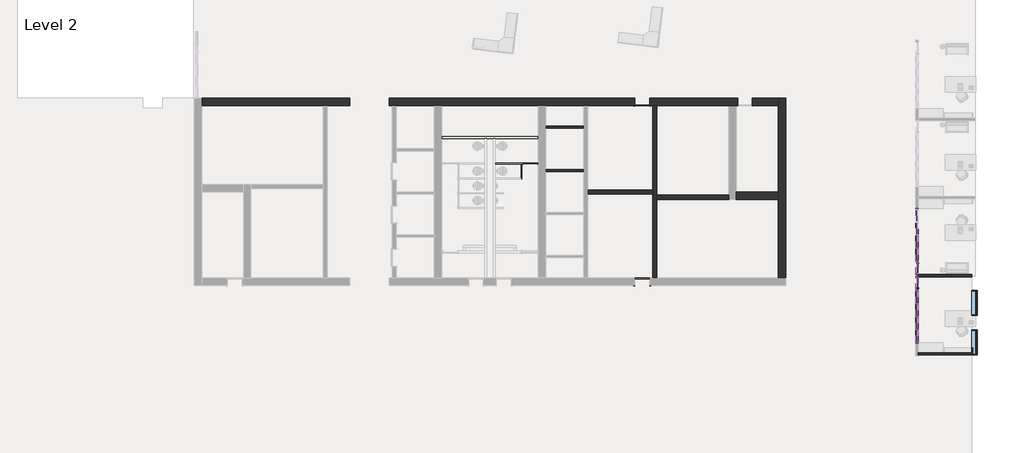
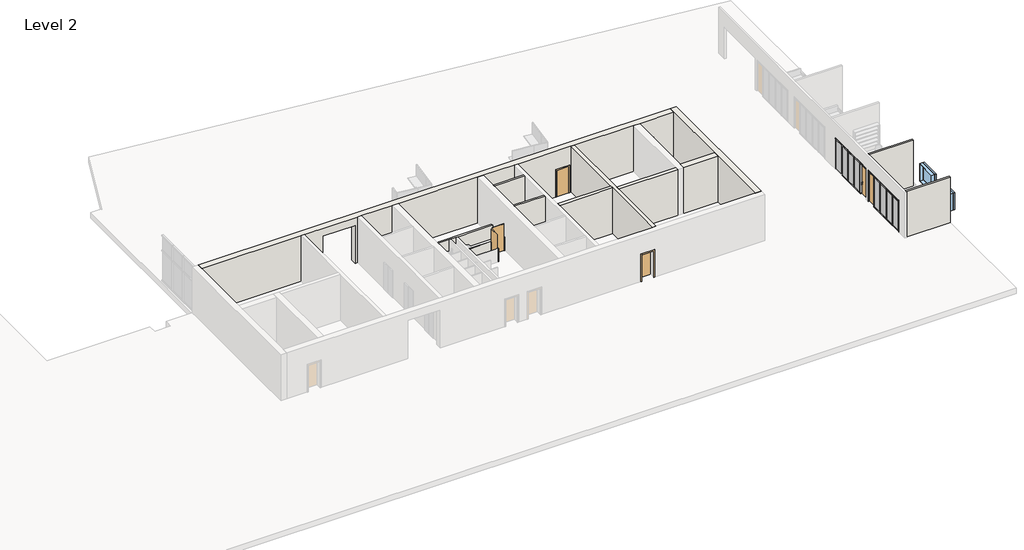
# One storey, part 2 of 7: 47 members, 18 plates, 13 walls, 6 doors, 2 windows.
"""IFC4 building model written with IfcOpenShell, lengths in millimetres."""

from ifc_helpers import new_model, si_unit, frame, origin, place, context, project, spatial, polyline, outline, extrude, faceted_brep, transform, mapped, element, save
from components import curtain_wall_sgl_glass_curtain_wall_sgl_glass_683140d0, curtain_wall_sgl_glass_curtain_wall_sgl_glass_5192a5a3, door_3c99239a, door_aec9db07, toilet_partitions_2_10_0724d611, door_243abaaa, member_9597caa3, member_b2bde9e6, member_ee409385, member_7ffbafd8, member_47ea2df9, member_5507c937, member_0e55f5ff, member_6d48148e, member_7899ddbe, system_panel_glazed_8093bbd9, system_panel_glazed_f9de1280, system_panel_glazed_6896c6c0, system_panel_glazed_50fd444c, window_7a027cf8

model = new_model("IFC4")

# Units and contexts
model_context = context("Model", 3, world=origin())
ifc_project = project(units=[si_unit("LENGTHUNIT", "METRE", prefix="MILLI")], contexts=[model_context])

# Site, building, storey
site = spatial("IfcSite", under=ifc_project)
building = spatial("IfcBuilding", under=site)
storey = spatial("IfcBuildingStorey", under=building, Name="Level 2", Elevation=3657.6)

# Doors
placement = place(None, origin())
curtain_wall_sgl_glass_curtain_wall_sgl_glass_shape = curtain_wall_sgl_glass_curtain_wall_sgl_glass_683140d0(model_context)
element("IfcDoor", 1, ObjectType="Curtain Wall Sgl Glass : Curtain Wall Sgl Glass", at=placement, inside=storey, context=model_context, shape_type="MappedRepresentation", body=[
    mapped(curtain_wall_sgl_glass_curtain_wall_sgl_glass_shape, transform((11449.2054088, -14715.1428492, 3657.6), x_axis=(0.0, 1.0, 0.0), y_axis=(-1.0, 0.0, 0.0), z_axis=(0.0, 0.0, 1.0))),
])
curtain_wall_sgl_glass_curtain_wall_sgl_glass_2_shape = curtain_wall_sgl_glass_curtain_wall_sgl_glass_5192a5a3(model_context)
element("IfcDoor", 2, ObjectType="Curtain Wall Sgl Glass : Curtain Wall Sgl Glass", at=placement, inside=storey, context=model_context, shape_type="MappedRepresentation", body=[
    mapped(curtain_wall_sgl_glass_curtain_wall_sgl_glass_2_shape, transform((11449.2054088, -13709.3028492, 3657.6), x_axis=(0.0, -1.0, 0.0), y_axis=(1.0, 0.0, 0.0), z_axis=(0.0, 0.0, 1.0))),
])
door_shape = door_3c99239a(model_context)
element("IfcDoor", 3, ObjectType="Single-Flush : 36\" x 84\"", at=placement, inside=storey, context=model_context, shape_type="MappedRepresentation", body=[
    mapped(door_shape, transform((-5525.0427926, -14594.8103492, 3657.6), x_axis=(1.0, 0.0, 0.0), y_axis=(0.0, 1.0, 0.0), z_axis=(0.0, 0.0, 1.0))),
])
door_2_shape = door_aec9db07(model_context)
element("IfcDoor", 4, ObjectType="Single-Flush : 36\" x 84\"", at=placement, inside=storey, context=model_context, shape_type="MappedRepresentation", body=[
    mapped(door_2_shape, transform((-5525.0427926, -3469.6103492, 3657.6), x_axis=(1.0, 0.0, 0.0), y_axis=(0.0, 1.0, 0.0), z_axis=(0.0, 0.0, 1.0))),
])
toilet_partitions_2_10_shape = toilet_partitions_2_10_0724d611(model_context)
element("IfcDoor", 5, ObjectType="toilet Partitions : 2'10", at=placement, inside=storey, context=model_context, shape_type="MappedRepresentation", body=[
    mapped(toilet_partitions_2_10_shape, transform((-12449.7428559, -7282.7853492, 3657.6), x_axis=(1.0, 0.0, 0.0), y_axis=(0.0, 1.0, 0.0), z_axis=(0.0, 0.0, 1.0))),
])
door_3_shape = door_243abaaa(model_context)
element("IfcDoor", 6, ObjectType="toilet Partitions : 2'5\"", at=placement, inside=storey, context=model_context, shape_type="MappedRepresentation", body=[
    mapped(door_3_shape, transform((-12985.3856498, -7739.9853492, 3657.6), x_axis=(0.0, -1.0, 0.0), y_axis=(1.0, 0.0, 0.0), z_axis=(0.0, 0.0, 1.0))),
])

# Members
member_shape = member_9597caa3(model_context)
element("IfcMember", 7, ObjectType="Rectangular Mullion : 2.5\" x 5\" rectangular", at=placement, inside=storey, context=model_context, shape_type="MappedRepresentation", body=[
    mapped(member_shape, transform((11449.2054088, -13307.9828492, 3721.1), x_axis=(0.0, 1.0, 0.0), y_axis=(1.0, 0.0, 0.0), z_axis=(0.0, 0.0, -1.0))),
])
element("IfcMember", 8, ObjectType="Rectangular Mullion : 2.5\" x 5\" rectangular", at=placement, inside=storey, context=model_context, shape_type="MappedRepresentation", body=[
    mapped(member_shape, transform((11449.2054088, -12505.3428492, 3721.1), x_axis=(0.0, 1.0, 0.0), y_axis=(1.0, 0.0, 0.0), z_axis=(0.0, 0.0, -1.0))),
])
element("IfcMember", 9, ObjectType="Rectangular Mullion : 2.5\" x 5\" rectangular", at=placement, inside=storey, context=model_context, shape_type="MappedRepresentation", body=[
    mapped(member_shape, transform((11449.2054088, -11702.7028492, 3721.1), x_axis=(0.0, 1.0, 0.0), y_axis=(1.0, 0.0, 0.0), z_axis=(0.0, 0.0, -1.0))),
])
member_2_shape = member_b2bde9e6(model_context)
element("IfcMember", 10, ObjectType="Rectangular Mullion : 2.5\" x 5\" rectangular", at=placement, inside=storey, context=model_context, shape_type="MappedRepresentation", body=[
    mapped(member_2_shape, transform((11449.2054088, -10065.6728492, 3721.1), x_axis=(0.0, 1.0, 0.0), y_axis=(1.0, 0.0, 0.0), z_axis=(0.0, 0.0, -1.0))),
])
element("IfcMember", 11, ObjectType="Rectangular Mullion : 2.5\" x 5\" rectangular", at=placement, inside=storey, context=model_context, shape_type="MappedRepresentation", body=[
    mapped(member_shape, transform((11449.2054088, -15116.4628492, 3721.1), x_axis=(0.0, -1.0, 0.0), y_axis=(-1.0, 0.0, 0.0), z_axis=(0.0, 0.0, -1.0))),
])
element("IfcMember", 12, ObjectType="Rectangular Mullion : 2.5\" x 5\" rectangular", at=placement, inside=storey, context=model_context, shape_type="MappedRepresentation", body=[
    mapped(member_shape, transform((11449.2054088, -15919.1028492, 3721.1), x_axis=(0.0, -1.0, 0.0), y_axis=(-1.0, 0.0, 0.0), z_axis=(0.0, 0.0, -1.0))),
])
element("IfcMember", 13, ObjectType="Rectangular Mullion : 2.5\" x 5\" rectangular", at=placement, inside=storey, context=model_context, shape_type="MappedRepresentation", body=[
    mapped(member_shape, transform((11449.2054088, -16721.7428492, 3721.1), x_axis=(0.0, -1.0, 0.0), y_axis=(-1.0, 0.0, 0.0), z_axis=(0.0, 0.0, -1.0))),
])
element("IfcMember", 14, ObjectType="Rectangular Mullion : 2.5\" x 5\" rectangular", at=placement, inside=storey, context=model_context, shape_type="MappedRepresentation", body=[
    mapped(member_shape, transform((11449.2054088, -17524.3828492, 3721.1), x_axis=(0.0, -1.0, 0.0), y_axis=(-1.0, 0.0, 0.0), z_axis=(0.0, 0.0, -1.0))),
])
element("IfcMember", 15, ObjectType="Rectangular Mullion : 2.5\" x 5\" rectangular", at=placement, inside=storey, context=model_context, shape_type="MappedRepresentation", body=[
    mapped(member_2_shape, transform((11449.2054088, -18358.7728492, 3721.1), x_axis=(0.0, -1.0, 0.0), y_axis=(-1.0, 0.0, 0.0), z_axis=(0.0, 0.0, -1.0))),
])
member_3_shape = member_ee409385(model_context)
element("IfcMember", 16, ObjectType="Rectangular Mullion : 2.5\" x 5\" rectangular", at=placement, inside=storey, context=model_context, shape_type="MappedRepresentation", body=[
    mapped(member_3_shape, transform((11449.2054088, -14142.3728492, 6096.0), x_axis=(0.0, -1.0, 0.0), y_axis=(1.0, 0.0, 0.0), z_axis=(0.0, 0.0, 1.0))),
])
member_4_shape = member_7ffbafd8(model_context)
element("IfcMember", 17, ObjectType="Rectangular Mullion : 2.5\" x 5\" rectangular", at=placement, inside=storey, context=model_context, shape_type="MappedRepresentation", body=[
    mapped(member_4_shape, transform((11449.2054088, -18358.7728492, 6197.6), x_axis=(0.0, 0.0, 1.0), y_axis=(-1.0, 0.0, 0.0), z_axis=(0.0, -1.0, 0.0))),
])
element("IfcMember", 18, ObjectType="Rectangular Mullion : 2.5\" x 5\" rectangular", at=placement, inside=storey, context=model_context, shape_type="MappedRepresentation", body=[
    mapped(member_4_shape, transform((11449.2054088, -15116.4628492, 6197.6), x_axis=(0.0, 0.0, 1.0), y_axis=(-1.0, 0.0, 0.0), z_axis=(0.0, -1.0, 0.0))),
])
element("IfcMember", 19, ObjectType="Rectangular Mullion : 2.5\" x 5\" rectangular", at=placement, inside=storey, context=model_context, shape_type="MappedRepresentation", body=[
    mapped(member_4_shape, transform((11449.2054088, -15084.7128492, 3657.6), x_axis=(0.0, 0.0, -1.0), y_axis=(-1.0, 0.0, 0.0), z_axis=(0.0, 1.0, 0.0))),
])
member_5_shape = member_47ea2df9(model_context)
element("IfcMember", 20, ObjectType="Rectangular Mullion : 2.5\" x 5\" rectangular", at=placement, inside=storey, context=model_context, shape_type="MappedRepresentation", body=[
    mapped(member_5_shape, transform((11449.2054088, -15919.1028492, 6096.0), x_axis=(0.0, 0.0, 1.0), y_axis=(-1.0, 0.0, 0.0), z_axis=(0.0, -1.0, 0.0))),
])
element("IfcMember", 21, ObjectType="Rectangular Mullion : 2.5\" x 5\" rectangular", at=placement, inside=storey, context=model_context, shape_type="MappedRepresentation", body=[
    mapped(member_5_shape, transform((11449.2054088, -16721.7428492, 6096.0), x_axis=(0.0, 0.0, 1.0), y_axis=(-1.0, 0.0, 0.0), z_axis=(0.0, -1.0, 0.0))),
])
element("IfcMember", 22, ObjectType="Rectangular Mullion : 2.5\" x 5\" rectangular", at=placement, inside=storey, context=model_context, shape_type="MappedRepresentation", body=[
    mapped(member_5_shape, transform((11449.2054088, -17524.3828492, 6096.0), x_axis=(0.0, 0.0, 1.0), y_axis=(-1.0, 0.0, 0.0), z_axis=(0.0, -1.0, 0.0))),
])
member_6_shape = member_5507c937(model_context)
element("IfcMember", 23, ObjectType="Rectangular Mullion : 2.5\" x 5\" rectangular", at=placement, inside=storey, context=model_context, shape_type="MappedRepresentation", body=[
    mapped(member_6_shape, transform((11449.2054088, -15919.1028492, 6197.6), x_axis=(0.0, 0.0, 1.0), y_axis=(-1.0, 0.0, 0.0), z_axis=(0.0, -1.0, 0.0))),
])
element("IfcMember", 24, ObjectType="Rectangular Mullion : 2.5\" x 5\" rectangular", at=placement, inside=storey, context=model_context, shape_type="MappedRepresentation", body=[
    mapped(member_6_shape, transform((11449.2054088, -16721.7428492, 6197.6), x_axis=(0.0, 0.0, 1.0), y_axis=(-1.0, 0.0, 0.0), z_axis=(0.0, -1.0, 0.0))),
])
element("IfcMember", 25, ObjectType="Rectangular Mullion : 2.5\" x 5\" rectangular", at=placement, inside=storey, context=model_context, shape_type="MappedRepresentation", body=[
    mapped(member_6_shape, transform((11449.2054088, -17524.3828492, 6197.6), x_axis=(0.0, 0.0, 1.0), y_axis=(-1.0, 0.0, 0.0), z_axis=(0.0, -1.0, 0.0))),
])
element("IfcMember", 26, ObjectType="Rectangular Mullion : 2.5\" x 5\" rectangular", at=placement, inside=storey, context=model_context, shape_type="MappedRepresentation", body=[
    mapped(member_6_shape, transform((11449.2054088, -15919.1028492, 3657.6), x_axis=(0.0, 0.0, -1.0), y_axis=(-1.0, 0.0, 0.0), z_axis=(0.0, 1.0, 0.0))),
])
element("IfcMember", 27, ObjectType="Rectangular Mullion : 2.5\" x 5\" rectangular", at=placement, inside=storey, context=model_context, shape_type="MappedRepresentation", body=[
    mapped(member_6_shape, transform((11449.2054088, -16721.7428492, 3657.6), x_axis=(0.0, 0.0, -1.0), y_axis=(-1.0, 0.0, 0.0), z_axis=(0.0, 1.0, 0.0))),
])
element("IfcMember", 28, ObjectType="Rectangular Mullion : 2.5\" x 5\" rectangular", at=placement, inside=storey, context=model_context, shape_type="MappedRepresentation", body=[
    mapped(member_4_shape, transform((11449.2054088, -17524.3828492, 3657.6), x_axis=(0.0, 0.0, -1.0), y_axis=(-1.0, 0.0, 0.0), z_axis=(0.0, 1.0, 0.0))),
])
member_7_shape = member_0e55f5ff(model_context)
element("IfcMember", 29, ObjectType="Rectangular Mullion : 2.5\" x 5\" rectangular", at=placement, inside=storey, context=model_context, shape_type="MappedRepresentation", body=[
    mapped(member_7_shape, transform((11449.2054088, -18295.2728492, 6096.0), x_axis=(0.0, 0.0, 1.0), y_axis=(-1.0, 0.0, 0.0), z_axis=(0.0, -1.0, 0.0))),
])
element("IfcMember", 30, ObjectType="Rectangular Mullion : 2.5\" x 5\" rectangular", at=placement, inside=storey, context=model_context, shape_type="MappedRepresentation", body=[
    mapped(member_7_shape, transform((11449.2054088, -15116.4628492, 6096.0), x_axis=(0.0, 0.0, 1.0), y_axis=(-1.0, 0.0, 0.0), z_axis=(0.0, -1.0, 0.0))),
])
element("IfcMember", 31, ObjectType="Rectangular Mullion : 2.5\" x 5\" rectangular", at=placement, inside=storey, context=model_context, shape_type="MappedRepresentation", body=[
    mapped(member_3_shape, transform((11449.2054088, -14282.0728492, 6096.0), x_axis=(0.0, 1.0, 0.0), y_axis=(-1.0, 0.0, 0.0), z_axis=(0.0, 0.0, 1.0))),
])
element("IfcMember", 32, ObjectType="Rectangular Mullion : 2.5\" x 5\" rectangular", at=placement, inside=storey, context=model_context, shape_type="MappedRepresentation", body=[
    mapped(member_4_shape, transform((11449.2054088, -10065.6728492, 6197.6), x_axis=(0.0, 0.0, 1.0), y_axis=(1.0, 0.0, 0.0), z_axis=(0.0, 1.0, 0.0))),
])
element("IfcMember", 33, ObjectType="Rectangular Mullion : 2.5\" x 5\" rectangular", at=placement, inside=storey, context=model_context, shape_type="MappedRepresentation", body=[
    mapped(member_4_shape, transform((11449.2054088, -13307.9828492, 6197.6), x_axis=(0.0, 0.0, 1.0), y_axis=(1.0, 0.0, 0.0), z_axis=(0.0, 1.0, 0.0))),
])
element("IfcMember", 34, ObjectType="Rectangular Mullion : 2.5\" x 5\" rectangular", at=placement, inside=storey, context=model_context, shape_type="MappedRepresentation", body=[
    mapped(member_4_shape, transform((11449.2054088, -13339.7328492, 3657.6), x_axis=(0.0, 0.0, -1.0), y_axis=(1.0, 0.0, 0.0), z_axis=(0.0, -1.0, 0.0))),
])
element("IfcMember", 35, ObjectType="Rectangular Mullion : 2.5\" x 5\" rectangular", at=placement, inside=storey, context=model_context, shape_type="MappedRepresentation", body=[
    mapped(member_5_shape, transform((11449.2054088, -12505.3428492, 6096.0), x_axis=(0.0, 0.0, 1.0), y_axis=(1.0, 0.0, 0.0), z_axis=(0.0, 1.0, 0.0))),
])
element("IfcMember", 36, ObjectType="Rectangular Mullion : 2.5\" x 5\" rectangular", at=placement, inside=storey, context=model_context, shape_type="MappedRepresentation", body=[
    mapped(member_5_shape, transform((11449.2054088, -11702.7028492, 6096.0), x_axis=(0.0, 0.0, 1.0), y_axis=(1.0, 0.0, 0.0), z_axis=(0.0, 1.0, 0.0))),
])
element("IfcMember", 37, ObjectType="Rectangular Mullion : 2.5\" x 5\" rectangular", at=placement, inside=storey, context=model_context, shape_type="MappedRepresentation", body=[
    mapped(member_6_shape, transform((11449.2054088, -12505.3428492, 6197.6), x_axis=(0.0, 0.0, 1.0), y_axis=(1.0, 0.0, 0.0), z_axis=(0.0, 1.0, 0.0))),
])
element("IfcMember", 38, ObjectType="Rectangular Mullion : 2.5\" x 5\" rectangular", at=placement, inside=storey, context=model_context, shape_type="MappedRepresentation", body=[
    mapped(member_6_shape, transform((11449.2054088, -11702.7028492, 6197.6), x_axis=(0.0, 0.0, 1.0), y_axis=(1.0, 0.0, 0.0), z_axis=(0.0, 1.0, 0.0))),
])
element("IfcMember", 39, ObjectType="Rectangular Mullion : 2.5\" x 5\" rectangular", at=placement, inside=storey, context=model_context, shape_type="MappedRepresentation", body=[
    mapped(member_6_shape, transform((11449.2054088, -10900.0628492, 6197.6), x_axis=(0.0, 0.0, 1.0), y_axis=(1.0, 0.0, 0.0), z_axis=(0.0, 1.0, 0.0))),
])
element("IfcMember", 40, ObjectType="Rectangular Mullion : 2.5\" x 5\" rectangular", at=placement, inside=storey, context=model_context, shape_type="MappedRepresentation", body=[
    mapped(member_6_shape, transform((11449.2054088, -12505.3428492, 3657.6), x_axis=(0.0, 0.0, -1.0), y_axis=(1.0, 0.0, 0.0), z_axis=(0.0, -1.0, 0.0))),
])
element("IfcMember", 41, ObjectType="Rectangular Mullion : 2.5\" x 5\" rectangular", at=placement, inside=storey, context=model_context, shape_type="MappedRepresentation", body=[
    mapped(member_6_shape, transform((11449.2054088, -11702.7028492, 3657.6), x_axis=(0.0, 0.0, -1.0), y_axis=(1.0, 0.0, 0.0), z_axis=(0.0, -1.0, 0.0))),
])
element("IfcMember", 42, ObjectType="Rectangular Mullion : 2.5\" x 5\" rectangular", at=placement, inside=storey, context=model_context, shape_type="MappedRepresentation", body=[
    mapped(member_7_shape, transform((11449.2054088, -13307.9828492, 6096.0), x_axis=(0.0, 0.0, 1.0), y_axis=(1.0, 0.0, 0.0), z_axis=(0.0, 1.0, 0.0))),
])
member_8_shape = member_6d48148e(model_context)
element("IfcMember", 43, ObjectType="Rectangular Mullion : 2.5\" x 5\" rectangular", at=placement, inside=storey, context=model_context, shape_type="MappedRepresentation", body=[
    mapped(member_8_shape, transform((11449.2054088, -13307.9828492, 6127.75), x_axis=(0.0, 1.0, 0.0), y_axis=(1.0, 0.0, 0.0), z_axis=(0.0, 0.0, -1.0))),
])
element("IfcMember", 44, ObjectType="Rectangular Mullion : 2.5\" x 5\" rectangular", at=placement, inside=storey, context=model_context, shape_type="MappedRepresentation", body=[
    mapped(member_8_shape, transform((11449.2054088, -12505.3428492, 6127.75), x_axis=(0.0, 1.0, 0.0), y_axis=(1.0, 0.0, 0.0), z_axis=(0.0, 0.0, -1.0))),
])
element("IfcMember", 45, ObjectType="Rectangular Mullion : 2.5\" x 5\" rectangular", at=placement, inside=storey, context=model_context, shape_type="MappedRepresentation", body=[
    mapped(member_8_shape, transform((11449.2054088, -11702.7028492, 6127.75), x_axis=(0.0, 1.0, 0.0), y_axis=(1.0, 0.0, 0.0), z_axis=(0.0, 0.0, -1.0))),
])
member_9_shape = member_7899ddbe(model_context)
element("IfcMember", 46, ObjectType="Rectangular Mullion : 2.5\" x 5\" rectangular", at=placement, inside=storey, context=model_context, shape_type="MappedRepresentation", body=[
    mapped(member_9_shape, transform((11449.2054088, -10065.6728492, 6096.0), x_axis=(0.0, 1.0, 0.0), y_axis=(1.0, 0.0, 0.0), z_axis=(0.0, 0.0, -1.0))),
])
element("IfcMember", 47, ObjectType="Rectangular Mullion : 2.5\" x 5\" rectangular", at=placement, inside=storey, context=model_context, shape_type="MappedRepresentation", body=[
    mapped(member_9_shape, transform((11449.2054088, -14142.3728492, 6134.1), x_axis=(0.0, -1.0, 0.0), y_axis=(1.0, 0.0, 0.0), z_axis=(0.0, 0.0, 1.0))),
])
element("IfcMember", 48, ObjectType="Rectangular Mullion : 2.5\" x 5\" rectangular", at=placement, inside=storey, context=model_context, shape_type="MappedRepresentation", body=[
    mapped(member_8_shape, transform((11449.2054088, -15116.4628492, 6127.75), x_axis=(0.0, -1.0, 0.0), y_axis=(-1.0, 0.0, 0.0), z_axis=(0.0, 0.0, -1.0))),
])
element("IfcMember", 49, ObjectType="Rectangular Mullion : 2.5\" x 5\" rectangular", at=placement, inside=storey, context=model_context, shape_type="MappedRepresentation", body=[
    mapped(member_8_shape, transform((11449.2054088, -15919.1028492, 6127.75), x_axis=(0.0, -1.0, 0.0), y_axis=(-1.0, 0.0, 0.0), z_axis=(0.0, 0.0, -1.0))),
])
element("IfcMember", 50, ObjectType="Rectangular Mullion : 2.5\" x 5\" rectangular", at=placement, inside=storey, context=model_context, shape_type="MappedRepresentation", body=[
    mapped(member_8_shape, transform((11449.2054088, -16721.7428492, 6127.75), x_axis=(0.0, -1.0, 0.0), y_axis=(-1.0, 0.0, 0.0), z_axis=(0.0, 0.0, -1.0))),
])
element("IfcMember", 51, ObjectType="Rectangular Mullion : 2.5\" x 5\" rectangular", at=placement, inside=storey, context=model_context, shape_type="MappedRepresentation", body=[
    mapped(member_8_shape, transform((11449.2054088, -17524.3828492, 6127.75), x_axis=(0.0, -1.0, 0.0), y_axis=(-1.0, 0.0, 0.0), z_axis=(0.0, 0.0, -1.0))),
])
element("IfcMember", 52, ObjectType="Rectangular Mullion : 2.5\" x 5\" rectangular", at=placement, inside=storey, context=model_context, shape_type="MappedRepresentation", body=[
    mapped(member_9_shape, transform((11449.2054088, -18358.7728492, 6096.0), x_axis=(0.0, -1.0, 0.0), y_axis=(-1.0, 0.0, 0.0), z_axis=(0.0, 0.0, -1.0))),
])
element("IfcMember", 53, ObjectType="Rectangular Mullion : 2.5\" x 5\" rectangular", at=placement, inside=storey, context=model_context, shape_type="MappedRepresentation", body=[
    mapped(member_9_shape, transform((11449.2054088, -14282.0728492, 6134.1), x_axis=(0.0, 1.0, 0.0), y_axis=(-1.0, 0.0, 0.0), z_axis=(0.0, 0.0, 1.0))),
])

# Plates
system_panel_glazed_shape = system_panel_glazed_8093bbd9(model_context)
element("IfcPlate", 54, ObjectType="System Panel : Glazed", at=placement, inside=storey, context=model_context, shape_type="MappedRepresentation", body=[
    mapped(system_panel_glazed_shape, transform((11449.2054088, -15517.7828492, 3721.1), x_axis=(0.0, -1.0, 0.0), y_axis=(1.0, 0.0, 0.0), z_axis=(0.0, 0.0, 1.0))),
])
element("IfcPlate", 55, ObjectType="System Panel : Glazed", at=placement, inside=storey, context=model_context, shape_type="MappedRepresentation", body=[
    mapped(system_panel_glazed_shape, transform((11449.2054088, -16320.4228492, 3721.1), x_axis=(0.0, -1.0, 0.0), y_axis=(1.0, 0.0, 0.0), z_axis=(0.0, 0.0, 1.0))),
])
element("IfcPlate", 56, ObjectType="System Panel : Glazed", at=placement, inside=storey, context=model_context, shape_type="MappedRepresentation", body=[
    mapped(system_panel_glazed_shape, transform((11449.2054088, -17123.0628492, 3721.1), x_axis=(0.0, -1.0, 0.0), y_axis=(1.0, 0.0, 0.0), z_axis=(0.0, 0.0, 1.0))),
])
element("IfcPlate", 57, ObjectType="System Panel : Glazed", at=placement, inside=storey, context=model_context, shape_type="MappedRepresentation", body=[
    mapped(system_panel_glazed_shape, transform((11449.2054088, -17925.7028492, 3721.1), x_axis=(0.0, -1.0, 0.0), y_axis=(1.0, 0.0, 0.0), z_axis=(0.0, 0.0, 1.0))),
])
system_panel_glazed_2_shape = system_panel_glazed_f9de1280(model_context)
element("IfcPlate", 58, ObjectType="System Panel : Glazed", at=placement, inside=storey, context=model_context, shape_type="MappedRepresentation", body=[
    mapped(system_panel_glazed_2_shape, transform((11449.2054088, -12906.6628492, 3721.1), x_axis=(0.0, 1.0, 0.0), y_axis=(-1.0, 0.0, 0.0), z_axis=(0.0, 0.0, 1.0))),
])
element("IfcPlate", 59, ObjectType="System Panel : Glazed", at=placement, inside=storey, context=model_context, shape_type="MappedRepresentation", body=[
    mapped(system_panel_glazed_2_shape, transform((11449.2054088, -12104.0228492, 3721.1), x_axis=(0.0, 1.0, 0.0), y_axis=(-1.0, 0.0, 0.0), z_axis=(0.0, 0.0, 1.0))),
])
element("IfcPlate", 60, ObjectType="System Panel : Glazed", at=placement, inside=storey, context=model_context, shape_type="MappedRepresentation", body=[
    mapped(system_panel_glazed_2_shape, transform((11449.2054088, -11301.3828492, 3721.1), x_axis=(0.0, 1.0, 0.0), y_axis=(-1.0, 0.0, 0.0), z_axis=(0.0, 0.0, 1.0))),
])
element("IfcPlate", 61, ObjectType="System Panel : Glazed", at=placement, inside=storey, context=model_context, shape_type="MappedRepresentation", body=[
    mapped(system_panel_glazed_2_shape, transform((11449.2054088, -10498.7428492, 3721.1), x_axis=(0.0, 1.0, 0.0), y_axis=(-1.0, 0.0, 0.0), z_axis=(0.0, 0.0, 1.0))),
])
system_panel_glazed_3_shape = system_panel_glazed_6896c6c0(model_context)
element("IfcPlate", 62, ObjectType="System Panel : Glazed", at=placement, inside=storey, context=model_context, shape_type="MappedRepresentation", body=[
    mapped(system_panel_glazed_3_shape, transform((11449.2054088, -13709.3028492, 6127.75), x_axis=(0.0, 1.0, 0.0), y_axis=(-1.0, 0.0, 0.0), z_axis=(0.0, 0.0, 1.0))),
])
element("IfcPlate", 63, ObjectType="System Panel : Glazed", at=placement, inside=storey, context=model_context, shape_type="MappedRepresentation", body=[
    mapped(system_panel_glazed_3_shape, transform((11449.2054088, -12906.6628492, 6127.75), x_axis=(0.0, 1.0, 0.0), y_axis=(-1.0, 0.0, 0.0), z_axis=(0.0, 0.0, 1.0))),
])
element("IfcPlate", 64, ObjectType="System Panel : Glazed", at=placement, inside=storey, context=model_context, shape_type="MappedRepresentation", body=[
    mapped(system_panel_glazed_3_shape, transform((11449.2054088, -12104.0228492, 6127.75), x_axis=(0.0, 1.0, 0.0), y_axis=(-1.0, 0.0, 0.0), z_axis=(0.0, 0.0, 1.0))),
])
element("IfcPlate", 65, ObjectType="System Panel : Glazed", at=placement, inside=storey, context=model_context, shape_type="MappedRepresentation", body=[
    mapped(system_panel_glazed_3_shape, transform((11449.2054088, -11301.3828492, 6127.75), x_axis=(0.0, 1.0, 0.0), y_axis=(-1.0, 0.0, 0.0), z_axis=(0.0, 0.0, 1.0))),
])
element("IfcPlate", 66, ObjectType="System Panel : Glazed", at=placement, inside=storey, context=model_context, shape_type="MappedRepresentation", body=[
    mapped(system_panel_glazed_3_shape, transform((11449.2054088, -10498.7428492, 6127.75), x_axis=(0.0, 1.0, 0.0), y_axis=(-1.0, 0.0, 0.0), z_axis=(0.0, 0.0, 1.0))),
])
system_panel_glazed_4_shape = system_panel_glazed_50fd444c(model_context)
element("IfcPlate", 67, ObjectType="System Panel : Glazed", at=placement, inside=storey, context=model_context, shape_type="MappedRepresentation", body=[
    mapped(system_panel_glazed_4_shape, transform((11449.2054088, -14715.1428492, 6127.75), x_axis=(0.0, -1.0, 0.0), y_axis=(1.0, 0.0, 0.0), z_axis=(0.0, 0.0, 1.0))),
])
element("IfcPlate", 68, ObjectType="System Panel : Glazed", at=placement, inside=storey, context=model_context, shape_type="MappedRepresentation", body=[
    mapped(system_panel_glazed_4_shape, transform((11449.2054088, -15517.7828492, 6127.75), x_axis=(0.0, -1.0, 0.0), y_axis=(1.0, 0.0, 0.0), z_axis=(0.0, 0.0, 1.0))),
])
element("IfcPlate", 69, ObjectType="System Panel : Glazed", at=placement, inside=storey, context=model_context, shape_type="MappedRepresentation", body=[
    mapped(system_panel_glazed_4_shape, transform((11449.2054088, -16320.4228492, 6127.75), x_axis=(0.0, -1.0, 0.0), y_axis=(1.0, 0.0, 0.0), z_axis=(0.0, 0.0, 1.0))),
])
element("IfcPlate", 70, ObjectType="System Panel : Glazed", at=placement, inside=storey, context=model_context, shape_type="MappedRepresentation", body=[
    mapped(system_panel_glazed_4_shape, transform((11449.2054088, -17123.0628492, 6127.75), x_axis=(0.0, -1.0, 0.0), y_axis=(1.0, 0.0, 0.0), z_axis=(0.0, 0.0, 1.0))),
])
element("IfcPlate", 71, ObjectType="System Panel : Glazed", at=placement, inside=storey, context=model_context, shape_type="MappedRepresentation", body=[
    mapped(system_panel_glazed_4_shape, transform((11449.2054088, -17925.7028492, 6127.75), x_axis=(0.0, -1.0, 0.0), y_axis=(1.0, 0.0, 0.0), z_axis=(0.0, 0.0, 1.0))),
])

# Walls
element("IfcWall", 72, ObjectType="Core-shaft 10\" Concrete", at=placement, inside=storey, context=model_context, shape_type="Brep", body=[
    faceted_brep([(-4636.0427926, -14366.2103492, 3657.6), (-4636.0427926, -9489.4103492, 3657.6), (-4636.0427926, -9235.4103492, 3657.6), (-4636.0427926, -3698.2103492, 3657.6), (-4636.0427926, -3698.2103492, 7315.2), (-4636.0427926, -9235.4103492, 7315.2), (-4636.0427926, -9489.4103492, 7315.2), (-4636.0427926, -14366.2103492, 7315.2), (-4890.0427926, -14366.2103492, 3657.6), (-4890.0427926, -14366.2103492, 7315.2), (-4890.0427926, -3698.2103492, 7315.2), (-4890.0427926, -3698.2103492, 3657.6)], [[[0, 1, 2, 3, 4, 5, 6, 7]], [[8, 9, 10, 11]], [[3, 2, 1, 0, 8, 11]], [[7, 6, 5, 4, 10, 9]], [[0, 7, 9, 8]], [[4, 3, 11, 10]]]),
])
element("IfcWall", 73, ObjectType="Core-shaft 10\" Concrete", at=placement, inside=storey, context=model_context, shape_type="SweptSolid", body=[
    extrude(outline(polyline([(-4636.0427926, -9235.4103492), (-172.8999355, -9235.4103492), (-172.8999355, -9489.4103492), (-4636.0427926, -9489.4103492), (-4636.0427926, -9235.4103492)])), frame((0.0, 0.0, 3657.6), z_axis=(0.0, 0.0, 1.0), x_axis=(1.0, 0.0, 0.0)), (0.0, 0.0, 1.0), 3657.6),
])
element("IfcWall", 74, ObjectType="Core-shaft 10\" Concrete", at=placement, inside=storey, context=model_context, shape_type="SweptSolid", body=[
    extrude(outline(polyline([(-8903.2427926, -8905.2103492), (-4890.0427926, -8905.2103492), (-4890.0427926, -9159.2103492), (-8903.2427926, -9159.2103492), (-8903.2427926, -8905.2103492)])), frame((0.0, 0.0, 3657.6), z_axis=(0.0, 0.0, 1.0), x_axis=(1.0, 0.0, 0.0)), (0.0, 0.0, 1.0), 3657.6),
])
element("IfcWall", 75, ObjectType="Core-shaft 18\" Concrete", at=placement, inside=storey, context=model_context, shape_type="Brep", body=[
    faceted_brep([(2867.8429217, -3241.0103492, 3657.6), (2867.8429217, -3698.2103492, 3657.6), (2867.8429217, -9032.2103492, 3657.6), (2867.8429217, -9489.4103492, 3657.6), (2867.8429217, -14366.2103492, 3657.6), (2867.8429217, -14366.2103492, 7315.2), (2867.8429217, -9489.4103492, 7315.2), (2867.8429217, -9032.2103492, 7315.2), (2867.8429217, -3698.2103492, 7315.2), (2867.8429217, -3241.0103492, 7315.2), (3325.0429217, -3241.0103492, 3657.6), (3325.0429217, -3241.0103492, 7315.2), (3325.0429217, -14366.2103492, 7315.2), (3325.0429217, -14366.2103492, 3657.6)], [[[0, 1, 2, 3, 4, 5, 6, 7, 8, 9]], [[10, 11, 12, 13]], [[4, 3, 2, 1, 0, 10, 13]], [[9, 8, 7, 6, 5, 12, 11]], [[5, 4, 13, 12]], [[0, 9, 11, 10]]]),
])
element("IfcWall", 76, ObjectType="Core-shaft 18\" Concrete", at=placement, inside=storey, context=model_context, shape_type="SweptSolid", body=[
    extrude(outline(polyline([(2867.8429217, -9489.4103492), (284.3000645, -9489.4103492), (284.3000645, -9032.2103492), (2867.8429217, -9032.2103492), (2867.8429217, -9489.4103492)])), frame((0.0, 0.0, 3657.6), z_axis=(0.0, 0.0, 1.0), x_axis=(1.0, 0.0, 0.0)), (0.0, 0.0, 1.0), 3657.6),
])
element("IfcWall", 77, ObjectType="Core-shaft 18\" Concrete", at=placement, inside=storey, context=model_context, shape_type="Brep", body=[
    faceted_brep([(-5067.8427926, -3698.2103492, 5791.2), (-5067.8427926, -3698.2103492, 3657.6), (-4890.0427926, -3698.2103492, 3657.6), (-4636.0427926, -3698.2103492, 3657.6), (-172.8999355, -3698.2103492, 3657.6), (284.3000645, -3698.2103492, 3657.6), (360.5000645, -3698.2103492, 3657.6), (360.5000645, -3698.2103492, 5791.2), (1274.9000645, -3698.2103492, 5791.2), (1274.9000645, -3698.2103492, 3657.6), (2867.8429217, -3698.2103492, 3657.6), (2867.8429217, -3698.2103492, 7315.2), (284.3000645, -3698.2103492, 7315.2), (-172.8999355, -3698.2103492, 7315.2), (-4636.0427926, -3698.2103492, 7315.2), (-4890.0427926, -3698.2103492, 7315.2), (-8903.2427926, -3698.2103492, 7315.2), (-9157.2427926, -3698.2103492, 7315.2), (-11497.2428559, -3698.2103492, 7315.2), (-11954.4428559, -3698.2103492, 7315.2), (-17927.9284437, -3698.2103492, 7315.2), (-18385.1284437, -3698.2103492, 7315.2), (-20725.1285069, -3698.2103492, 7315.2), (-20979.1285069, -3698.2103492, 7315.2), (-24992.3285069, -3698.2103492, 7315.2), (-25246.3285069, -3698.2103492, 7315.2), (-32750.2142212, -3698.2103492, 7315.2), (-32750.2142212, -3698.2103492, 3657.6), (-25246.3285069, -3698.2103492, 3657.6), (-24992.3285069, -3698.2103492, 3657.6), (-23606.2142212, -3698.2103492, 3657.6), (-23606.2142212, -3698.2103492, 6705.6), (-21167.8142212, -3698.2103492, 6705.6), (-21167.8142212, -3698.2103492, 3657.6), (-20979.1285069, -3698.2103492, 3657.6), (-20725.1285069, -3698.2103492, 3657.6), (-18385.1284437, -3698.2103492, 3657.6), (-17927.9284437, -3698.2103492, 3657.6), (-11954.4428559, -3698.2103492, 3657.6), (-11497.2428559, -3698.2103492, 3657.6), (-9157.2427926, -3698.2103492, 3657.6), (-8903.2427926, -3698.2103492, 3657.6), (-5982.2427926, -3698.2103492, 3657.6), (-5982.2427926, -3698.2103492, 5791.2), (360.5000645, -3241.0103492, 3657.6), (-5067.8427926, -3241.0103492, 3657.6), (-5067.8427926, -3241.0103492, 5791.2), (-5982.2427926, -3241.0103492, 5791.2), (-5982.2427926, -3241.0103492, 3657.6), (-21167.8142212, -3241.0103492, 3657.6), (-21167.8142212, -3241.0103492, 6705.6), (-23606.2142212, -3241.0103492, 6705.6), (-23606.2142212, -3241.0103492, 3657.6), (-32750.2142212, -3241.0103492, 3657.6), (-32750.2142212, -3241.0103492, 7315.2), (2867.8429217, -3241.0103492, 7315.2), (2867.8429217, -3241.0103492, 3657.6), (1274.9000645, -3241.0103492, 3657.6), (1274.9000645, -3241.0103492, 5791.2), (360.5000645, -3241.0103492, 5791.2)], [[[0, 1, 2, 3, 4, 5, 6, 7, 8, 9, 10, 11, 12, 13, 14, 15, 16, 17, 18, 19, 20, 21, 22, 23, 24, 25, 26, 27, 28, 29, 30, 31, 32, 33, 34, 35, 36, 37, 38, 39, 40, 41, 42, 43]], [[44, 45, 46, 47, 48, 49, 50, 51, 52, 53, 54, 55, 56, 57, 58, 59]], [[57, 56, 10, 9]], [[42, 41, 40, 39, 38, 37, 36, 35, 34, 33, 49, 48]], [[6, 5, 4, 3, 2, 1, 45, 44]], [[27, 53, 52, 30, 29, 28]], [[26, 25, 24, 23, 22, 21, 20, 19, 18, 17, 16, 15, 14, 13, 12, 11, 55, 54]], [[31, 51, 50, 32]], [[51, 31, 30, 52]], [[32, 50, 49, 33]], [[7, 6, 44, 59]], [[8, 7, 59, 58]], [[9, 8, 58, 57]], [[46, 45, 1, 0]], [[47, 46, 0, 43]], [[48, 47, 43, 42]], [[11, 10, 56, 55]], [[27, 26, 54, 53]]]),
])
element("IfcWall", 78, ObjectType="Generic - 5\"", at=placement, inside=storey, context=model_context, shape_type="SweptSolid", body=[
    extrude(outline(polyline([(-11497.2428559, -7635.2103492), (-9157.2427926, -7635.2103492), (-9157.2427926, -7762.2103492), (-11497.2428559, -7762.2103492), (-11497.2428559, -7635.2103492)])), frame((0.0, 0.0, 3657.6), z_axis=(0.0, 0.0, 1.0), x_axis=(1.0, 0.0, 0.0)), (0.0, 0.0, 1.0), 3657.6),
])
element("IfcWall", 79, ObjectType="Generic - 5\"", at=placement, inside=storey, context=model_context, shape_type="SweptSolid", body=[
    extrude(outline(polyline([(-11497.2428559, -4968.2103492), (-9157.2427926, -4968.2103492), (-9157.2427926, -5095.2103492), (-11497.2428559, -5095.2103492), (-11497.2428559, -4968.2103492)])), frame((0.0, 0.0, 3657.6), z_axis=(0.0, 0.0, 1.0), x_axis=(1.0, 0.0, 0.0)), (0.0, 0.0, 1.0), 3657.6),
])
element("IfcWall", 80, ObjectType="Interior - 5 1/2\" Partition (1-hr)", at=placement, inside=storey, context=model_context, shape_type="Brep", body=[
    faceted_brep([(14830.5804088, -14142.3728492, 3657.6), (11519.0554088, -14142.3728492, 3657.6), (11519.0554088, -14142.3728492, 6197.6), (11519.0554088, -14142.3728492, 7315.2), (14830.5804088, -14142.3728492, 7315.2), (14830.5804088, -14282.0728492, 3657.6), (14830.5804088, -14282.0728492, 7315.2), (11519.0554088, -14282.0728492, 7315.2), (11519.0554088, -14282.0728492, 6197.6), (11519.0554088, -14282.0728492, 3657.6), (14830.5804088, -14218.4266737, 3657.6)], [[[0, 1, 2, 3, 4]], [[5, 6, 7, 8, 9]], [[1, 0, 10, 5, 9]], [[4, 3, 7, 6]], [[3, 2, 1, 9, 8, 7]], [[0, 4, 6, 5, 10]]]),
])
element("IfcWall", 81, ObjectType="Interior - 5 1/2\" Partition (1-hr)", at=placement, inside=storey, context=model_context, shape_type="SweptSolid", body=[
    extrude(outline(polyline([(11519.0554088, -18976.8771498), (14830.5804088, -18976.8771498), (14830.5804088, -19116.5771498), (11519.0554088, -19116.5771498), (11519.0554088, -18976.8771498)])), frame((0.0, 0.0, 3657.6), z_axis=(0.0, 0.0, 1.0), x_axis=(1.0, 0.0, 0.0)), (0.0, 0.0, 1.0), 3657.6),
])
element("IfcWall", 82, ObjectType="Interior - Generic - 5\"", at=placement, inside=storey, context=model_context, shape_type="Brep", body=[
    faceted_brep([(-17927.9284437, -5742.9103492, 3657.6), (-15258.6856498, -5742.9103492, 3657.6), (-15131.6856498, -5742.9103492, 3657.6), (-14750.6856498, -5742.9103492, 3657.6), (-14623.6856498, -5742.9103492, 3657.6), (-11954.4428559, -5742.9103492, 3657.6), (-11954.4428559, -5742.9103492, 4724.4), (-14623.6856498, -5742.9103492, 4724.4), (-14750.6856498, -5742.9103492, 4724.4), (-15131.6856498, -5742.9103492, 4724.4), (-15258.6856498, -5742.9103492, 4724.4), (-17927.9284437, -5742.9103492, 4724.4), (-17927.9284437, -5615.9103492, 3657.6), (-17927.9284437, -5615.9103492, 4724.4), (-11954.4428559, -5615.9103492, 4724.4), (-11954.4428559, -5615.9103492, 3657.6)], [[[0, 1, 2, 3, 4, 5, 6, 7, 8, 9, 10, 11]], [[12, 13, 14, 15]], [[5, 4, 3, 2, 1, 0, 12, 15]], [[11, 10, 9, 8, 7, 6, 14, 13]], [[0, 11, 13, 12]], [[6, 5, 15, 14]]]),
])
element("IfcWall", 83, ObjectType="Toilet Partition", at=placement, inside=storey, context=model_context, shape_type="Brep", body=[
    faceted_brep([(-12959.9856498, -7308.1853492, 3657.6), (-12959.9856498, -7308.1853492, 4724.4), (-12959.9856498, -7371.6853492, 4724.4), (-12959.9856498, -7371.6853492, 3657.6), (-13010.7856498, -7308.1853492, 4724.4), (-13010.7856498, -7308.1853492, 3657.6), (-13010.7856498, -7371.6853492, 3657.6), (-13010.7856498, -7371.6853492, 4724.4)], [[[0, 1, 2, 3]], [[4, 5, 6, 7]], [[5, 0, 3, 6]], [[1, 4, 7, 2]], [[1, 0, 5, 4]], [[3, 2, 7, 6]]]),
    faceted_brep([(-12959.9856498, -8222.5853492, 4724.4), (-12959.9856498, -8222.5853492, 3657.6), (-12959.9856498, -8108.2853492, 3657.6), (-12959.9856498, -8108.2853492, 4724.4), (-13010.7856498, -8222.5853492, 3657.6), (-13010.7856498, -8222.5853492, 4724.4), (-13010.7856498, -8171.7853492, 4724.4), (-13010.7856498, -8108.2853492, 4724.4), (-13010.7856498, -8108.2853492, 3657.6), (-13010.7856498, -8171.7853492, 3657.6)], [[[0, 1, 2, 3]], [[4, 5, 6, 7, 8, 9]], [[1, 4, 9, 8, 2]], [[5, 0, 3, 7, 6]], [[3, 2, 8, 7]], [[1, 0, 5, 4]]]),
])
element("IfcWall", 84, ObjectType="Toilet Partition", at=placement, inside=storey, context=model_context, shape_type="Brep", body=[
    faceted_brep([(-11954.4428559, -7308.1853492, 3657.6), (-11954.4428559, -7308.1853492, 4724.4), (-12017.9428559, -7308.1853492, 4724.4), (-12017.9428559, -7308.1853492, 3657.6), (-11954.4428559, -7257.3853492, 4724.4), (-11954.4428559, -7257.3853492, 3657.6), (-12017.9428559, -7257.3853492, 3657.6), (-12017.9428559, -7257.3853492, 4724.4)], [[[0, 1, 2, 3]], [[4, 5, 6, 7]], [[5, 0, 3, 6]], [[1, 4, 7, 2]], [[3, 2, 7, 6]], [[1, 0, 5, 4]]]),
    faceted_brep([(-14623.6856498, -7308.1853492, 4724.4), (-14623.6856498, -7308.1853492, 3657.6), (-13010.7856498, -7308.1853492, 3657.6), (-12959.9856498, -7308.1853492, 3657.6), (-12881.5428559, -7308.1853492, 3657.6), (-12881.5428559, -7308.1853492, 4724.4), (-12959.9856498, -7308.1853492, 4724.4), (-13010.7856498, -7308.1853492, 4724.4), (-14623.6856498, -7257.3853492, 3657.6), (-14623.6856498, -7257.3853492, 4724.4), (-12881.5428559, -7257.3853492, 4724.4), (-12881.5428559, -7257.3853492, 3657.6)], [[[0, 1, 2, 3, 4, 5, 6, 7]], [[8, 9, 10, 11]], [[1, 8, 11, 4, 3, 2]], [[9, 0, 7, 6, 5, 10]], [[5, 4, 11, 10]], [[1, 0, 9, 8]]]),
])

# Windows
window_shape = window_7a027cf8(model_context)
element("IfcWindow", 85, ObjectType="Fixed : 60\" x 54\"", at=placement, inside=storey, context=model_context, shape_type="MappedRepresentation", body=[
    mapped(window_shape, transform((15006.7929088, -15933.0728492, 2743.2), x_axis=(0.0, -1.0, 0.0), y_axis=(1.0, 0.0, 0.0), z_axis=(0.0, 0.0, 1.0))),
])
element("IfcWindow", 86, ObjectType="Fixed : 60\" x 54\"", at=placement, inside=storey, context=model_context, shape_type="MappedRepresentation", body=[
    mapped(window_shape, transform((15006.7929088, -18371.4728492, 2743.2), x_axis=(0.0, -1.0, 0.0), y_axis=(1.0, 0.0, 0.0), z_axis=(0.0, 0.0, 1.0))),
])

save(model, "model.ifc")
